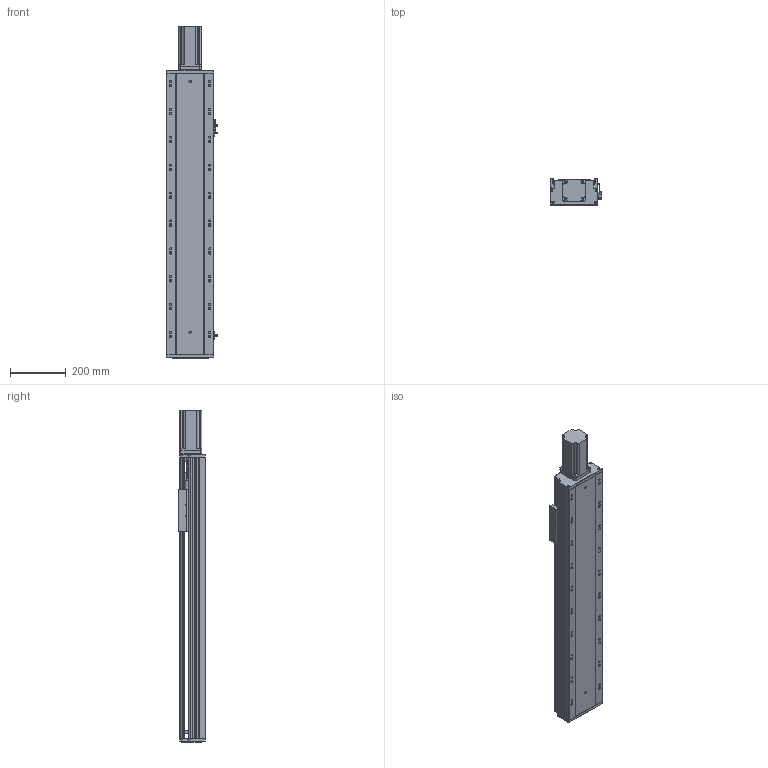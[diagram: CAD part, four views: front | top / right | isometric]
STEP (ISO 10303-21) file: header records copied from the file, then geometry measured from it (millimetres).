
FILE_DESCRIPTION (( 'STEP AP203' ), '1' );
FILE_NAME ('RY170-L2510-300-MK(FK17).SLDASM_700.step', '2022-08-23T02:00:30', ( '' ), ( '' ), 'SwSTEP 2.0', 'SolidWorks 2016', '' );
FILE_SCHEMA (( 'CONFIG_CONTROL_DESIGN' ));
Length unit declared in the file: millimetre
Products named in the file (15): RY170-L2510-300-MK(FK17).SLDASM_700; 覜茼ん672; RY170电机端支撑座(25丝杆7004轴承)-压铸(FK17); RY170外置感应片(200共用）; 侂狟400W侜督萇儂; 15; RY170-300倰第菁釱-MK_700; 750W萇儂梓袧蛌諉啣; RY170-300倰第裔啣-MK_700; RY170綴裔啣; RY170ヶ醱裔啣; 侂狟750W萇儂ㄗ80遺ㄘ; RY170臏賑輸25佪裝蹟譫; 滅袉蝶18-10; 滅袉蝶18-28
Assembly tree (16 placements, depth 3):
  RY170-L2510-300-MK(FK17).SLDASM_700
    RY170-300倰第菁釱-MK_700
    RY170-300倰第裔啣-MK_700
    RY170臏賑輸25佪裝蹟譫
    侂狟400W侜督萇儂
      15
    RY170綴裔啣
    RY170电机端支撑座(25丝杆7004轴承)-压铸(FK17)
    覜茼ん672  x3
    RY170外置感应片(200共用）
    RY170ヶ醱裔啣
    滅袉蝶18-28
    滅袉蝶18-10
    侂狟750W萇儂ㄗ80遺ㄘ
    750W萇儂梓袧蛌諉啣
Bounding box: 183.7 x 97 x 1191 mm (x, y, z)
Volume: 6478328.5 mm3; surface area: 1861717.5 mm2
Topology: 15 solids, 15 shells, 2241 faces, 6491 edges, 4154 vertices
Faces by surface type: plane 1014, cylinder 956, cone 235, bspline 36
Entity records: 73535 total; most frequent: CARTESIAN_POINT 17428, ORIENTED_EDGE 11706, DIRECTION 11175, EDGE_CURVE 5853, AXIS2_PLACEMENT_3D 3894, VERTEX_POINT 3834, VECTOR 3387, LINE 3387
